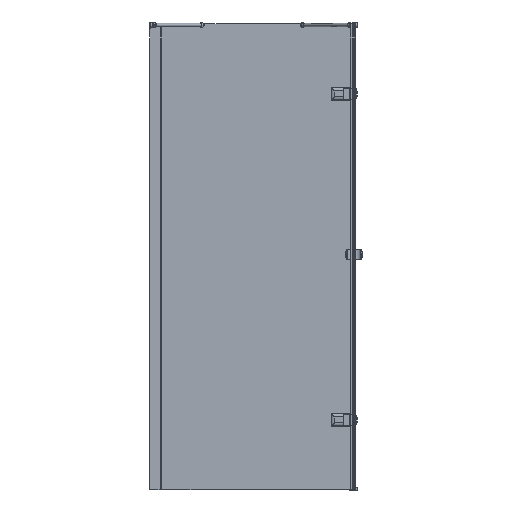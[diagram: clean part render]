
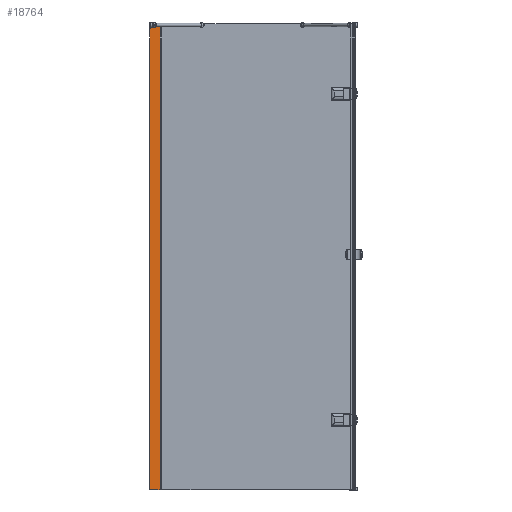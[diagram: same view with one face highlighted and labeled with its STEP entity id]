
A CAD part, left-side view. The second image highlights one B-rep face of the part: STEP entity #18764.
In plain terms, the highlighted planar face has unit normal (-1, 0, 0).
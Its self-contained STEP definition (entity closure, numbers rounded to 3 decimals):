
#1138=LINE($,#30702,#2971);
#1276=LINE($,#31361,#3109);
#1581=LINE($,#33994,#3414);
#1584=LINE($,#34002,#3417);
#2971=VECTOR($,#23014,44.25);
#3109=VECTOR($,#23410,44.25);
#3414=VECTOR($,#24217,2000.);
#3417=VECTOR($,#24230,2000.);
#5212=FACE_OUTER_BOUND($,#6268,.T.);
#6268=EDGE_LOOP($,(#14921,#14922,#14923,#14924));
#8005=VERTEX_POINT($,#30699);
#8006=VERTEX_POINT($,#30701);
#8159=VERTEX_POINT($,#31358);
#8160=VERTEX_POINT($,#31360);
#10033=EDGE_CURVE($,#8005,#8006,#1138,.T.);
#10254=EDGE_CURVE($,#8159,#8160,#1276,.T.);
#10690=EDGE_CURVE($,#8005,#8160,#1581,.T.);
#10693=EDGE_CURVE($,#8159,#8006,#1584,.T.);
#14921=ORIENTED_EDGE($,*,*,#10254,.F.);
#14922=ORIENTED_EDGE($,*,*,#10693,.T.);
#14923=ORIENTED_EDGE($,*,*,#10033,.F.);
#14924=ORIENTED_EDGE($,*,*,#10690,.T.);
#16845=PLANE($,#20222);
#18764=ADVANCED_FACE($,(#5212),#16845,.T.);
#20222=AXIS2_PLACEMENT_3D($,#34003,#24231,#24232);
#23014=DIRECTION($,(0.,-1.,0.));
#23410=DIRECTION($,(0.,1.,0.));
#24217=DIRECTION($,(0.,0.,-1.));
#24230=DIRECTION($,(0.,0.,1.));
#24231=DIRECTION('center_axis',(-1.,0.,0.));
#24232=DIRECTION('ref_axis',(0.,-1.,0.));
#30699=CARTESIAN_POINT('',(1235.019,845.956,1485.944));
#30701=CARTESIAN_POINT('',(1235.019,801.706,1485.944));
#30702=CARTESIAN_POINT($,(1235.019,845.956,1485.944));
#31358=CARTESIAN_POINT('',(1235.019,801.706,-514.056));
#31360=CARTESIAN_POINT('',(1235.019,845.956,-514.056));
#31361=CARTESIAN_POINT($,(1235.019,831.956,-514.056));
#33994=CARTESIAN_POINT($,(1235.019,845.956,1485.944));
#34002=CARTESIAN_POINT($,(1235.019,801.706,-514.056));
#34003=CARTESIAN_POINT('Origin',(1235.019,843.956,-514.056));
